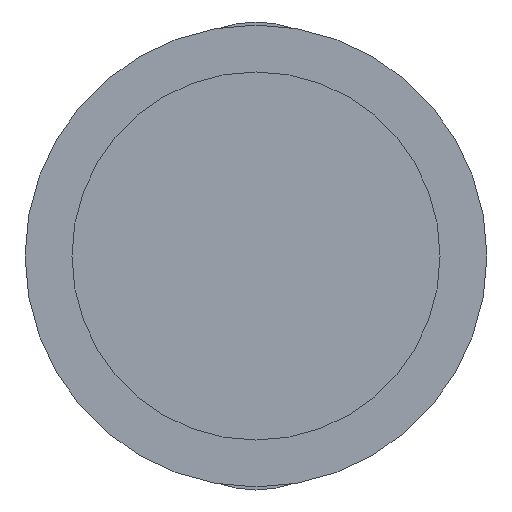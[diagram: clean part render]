
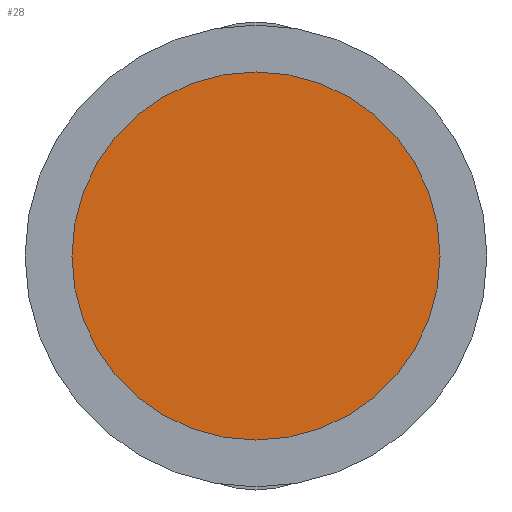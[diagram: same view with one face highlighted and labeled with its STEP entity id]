
A CAD part, front view. The second image highlights one B-rep face of the part: STEP entity #28.
In plain terms, the highlighted planar face has unit normal (0, -1, 0).
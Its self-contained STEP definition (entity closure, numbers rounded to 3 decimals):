
#5 = VERTEX_POINT ( 'NONE', #405 ) ;
#10 = DIRECTION ( 'NONE',  ( 1., 0., 0. ) ) ;
#17 = DIRECTION ( 'NONE',  ( 0., -1., 0. ) ) ;
#28 = ADVANCED_FACE ( 'NONE', ( #377 ), #451, .F. ) ;
#34 = ORIENTED_EDGE ( 'NONE', *, *, #382, .T. ) ;
#93 = CARTESIAN_POINT ( 'NONE',  ( -34., -30.8, 217.5 ) ) ;
#100 = CIRCLE ( 'NONE', #398, 5.9 ) ;
#106 = ORIENTED_EDGE ( 'NONE', *, *, #148, .T. ) ;
#114 = CARTESIAN_POINT ( 'NONE',  ( -34., -30.8, 217.5 ) ) ;
#125 = AXIS2_PLACEMENT_3D ( 'NONE', #114, #301, #460 ) ;
#148 = EDGE_CURVE ( 'NONE', #226, #5, #100, .T. ) ;
#202 = CARTESIAN_POINT ( 'NONE',  ( -34., -30.8, 223.4 ) ) ;
#226 = VERTEX_POINT ( 'NONE', #325 ) ;
#255 = EDGE_LOOP ( 'NONE', ( #106, #34 ) ) ;
#286 = AXIS2_PLACEMENT_3D ( 'NONE', #202, #531, #381 ) ;
#301 = DIRECTION ( 'NONE',  ( 0., -1., 0. ) ) ;
#325 = CARTESIAN_POINT ( 'NONE',  ( -28.1, -30.8, 217.5 ) ) ;
#334 = CIRCLE ( 'NONE', #125, 5.9 ) ;
#377 = FACE_OUTER_BOUND ( 'NONE', #255, .T. ) ;
#381 = DIRECTION ( 'NONE',  ( -1., 0., 0. ) ) ;
#382 = EDGE_CURVE ( 'NONE', #5, #226, #334, .T. ) ;
#398 = AXIS2_PLACEMENT_3D ( 'NONE', #93, #17, #10 ) ;
#405 = CARTESIAN_POINT ( 'NONE',  ( -39.9, -30.8, 217.5 ) ) ;
#451 = PLANE ( 'NONE',  #286 ) ;
#460 = DIRECTION ( 'NONE',  ( 1., 0., 0. ) ) ;
#531 = DIRECTION ( 'NONE',  ( 0., 1., 0. ) ) ;
